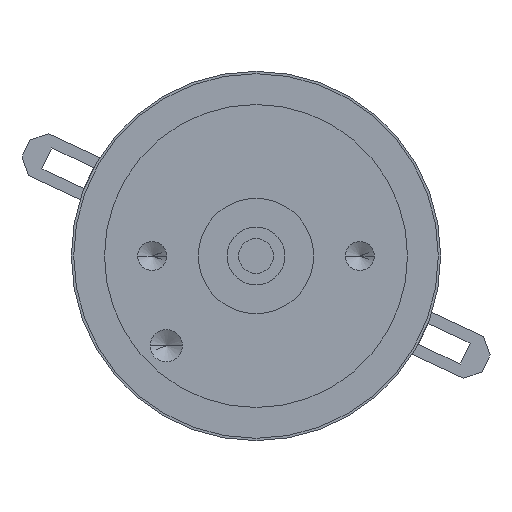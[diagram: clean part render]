
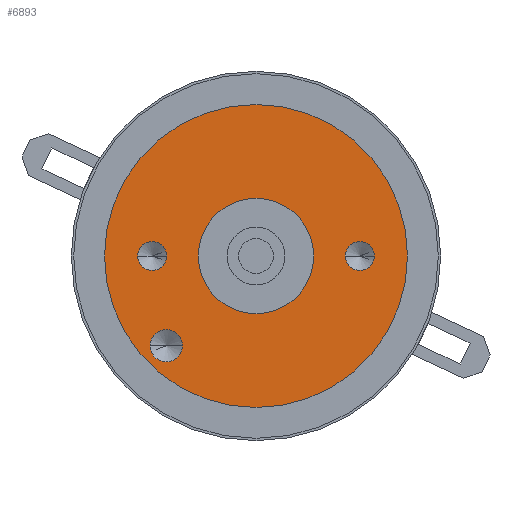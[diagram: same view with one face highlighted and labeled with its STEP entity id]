
A CAD part, left-side view. The second image highlights one B-rep face of the part: STEP entity #6893.
In plain terms, the highlighted planar face has unit normal (-1, 0, 0).
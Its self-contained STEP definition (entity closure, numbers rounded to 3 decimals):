
#2540=CARTESIAN_POINT('',(0.,0.,0.));
#2541=DIRECTION('',(-1.,0.,0.));
#2542=DIRECTION('',(0.,1.,0.));
#2543=AXIS2_PLACEMENT_3D('',#2540,#2541,#2542);
#2548=CARTESIAN_POINT('',(0.,0.,0.));
#2549=DIRECTION('',(1.,0.,0.));
#2550=DIRECTION('',(0.,1.,0.));
#2551=AXIS2_PLACEMENT_3D('',#2548,#2549,#2550);
#2556=CARTESIAN_POINT('',(0.,4.5,0.));
#2557=DIRECTION('',(-1.,0.,0.));
#2558=DIRECTION('',(0.,1.,0.));
#2559=AXIS2_PLACEMENT_3D('',#2556,#2557,#2558);
#2564=CARTESIAN_POINT('',(0.,4.5,0.));
#2565=DIRECTION('',(-1.,0.,0.));
#2566=DIRECTION('',(0.,-1.,0.));
#2567=AXIS2_PLACEMENT_3D('',#2564,#2565,#2566);
#2572=CARTESIAN_POINT('',(0.,-4.5,0.));
#2573=DIRECTION('',(-1.,0.,0.));
#2574=DIRECTION('',(0.,-1.,0.));
#2575=AXIS2_PLACEMENT_3D('',#2572,#2573,#2574);
#2580=CARTESIAN_POINT('',(0.,-4.5,0.));
#2581=DIRECTION('',(-1.,0.,0.));
#2582=DIRECTION('',(0.,1.,0.));
#2583=AXIS2_PLACEMENT_3D('',#2580,#2581,#2582);
#2588=CARTESIAN_POINT('',(0.,3.889,-3.889));
#2589=DIRECTION('',(-1.,0.,0.));
#2590=DIRECTION('',(0.,1.,0.));
#2591=AXIS2_PLACEMENT_3D('',#2588,#2589,#2590);
#2596=CARTESIAN_POINT('',(0.,3.889,-3.889));
#2597=DIRECTION('',(-1.,0.,0.));
#2598=DIRECTION('',(0.,-1.,0.));
#2599=AXIS2_PLACEMENT_3D('',#2596,#2597,#2598);
#2604=CARTESIAN_POINT('',(0.,0.,0.));
#2605=DIRECTION('',(1.,0.,0.));
#2606=DIRECTION('',(0.,1.,0.));
#2607=AXIS2_PLACEMENT_3D('',#2604,#2605,#2606);
#2626=CARTESIAN_POINT('',(0.,0.,0.));
#2627=DIRECTION('',(-1.,0.,0.));
#2628=DIRECTION('',(0.,1.,0.));
#2629=AXIS2_PLACEMENT_3D('',#2626,#2627,#2628);
#4223=CARTESIAN_POINT('',(0.,2.5,0.));
#4225=VERTEX_POINT('',#4223);
#4227=CARTESIAN_POINT('',(0.,-2.5,0.));
#4229=VERTEX_POINT('',#4227);
#4256=CARTESIAN_POINT('',(0.,6.565,0.));
#4258=VERTEX_POINT('',#4256);
#4260=CARTESIAN_POINT('',(0.,-6.565,0.));
#4262=VERTEX_POINT('',#4260);
#4283=CARTESIAN_POINT('',(0.,4.589,-3.889));
#4284=CARTESIAN_POINT('',(0.,3.189,-3.889));
#4285=VERTEX_POINT('',#4283);
#4286=VERTEX_POINT('',#4284);
#4293=CARTESIAN_POINT('',(0.,5.125,0.));
#4294=CARTESIAN_POINT('',(0.,3.875,0.));
#4295=VERTEX_POINT('',#4293);
#4296=VERTEX_POINT('',#4294);
#4297=CARTESIAN_POINT('',(0.,-5.125,0.));
#4298=CARTESIAN_POINT('',(0.,-3.875,0.));
#4299=VERTEX_POINT('',#4297);
#4300=VERTEX_POINT('',#4298);
#6860=CARTESIAN_POINT('',(0.,0.,0.));
#6861=DIRECTION('',(1.,0.,0.));
#6862=DIRECTION('',(0.,-1.,0.));
#6863=AXIS2_PLACEMENT_3D('',#6860,#6861,#6862);
#6864=PLANE('',#6863);
#6865=ORIENTED_EDGE('',*,*,#6853,.F.);
#6866=ORIENTED_EDGE('',*,*,#6842,.T.);
#6867=EDGE_LOOP('',(#6865,#6866));
#6868=FACE_OUTER_BOUND('',#6867,.F.);
#6870=ORIENTED_EDGE('',*,*,#6869,.F.);
#6872=ORIENTED_EDGE('',*,*,#6871,.T.);
#6873=EDGE_LOOP('',(#6870,#6872));
#6874=FACE_BOUND('',#6873,.F.);
#6876=ORIENTED_EDGE('',*,*,#6875,.T.);
#6878=ORIENTED_EDGE('',*,*,#6877,.T.);
#6879=EDGE_LOOP('',(#6876,#6878));
#6880=FACE_BOUND('',#6879,.F.);
#6882=ORIENTED_EDGE('',*,*,#6881,.T.);
#6884=ORIENTED_EDGE('',*,*,#6883,.T.);
#6885=EDGE_LOOP('',(#6882,#6884));
#6886=FACE_BOUND('',#6885,.F.);
#6888=ORIENTED_EDGE('',*,*,#6887,.T.);
#6890=ORIENTED_EDGE('',*,*,#6889,.T.);
#6891=EDGE_LOOP('',(#6888,#6890));
#6892=FACE_BOUND('',#6891,.F.);
#6893=ADVANCED_FACE('',(#6868,#6874,#6880,#6886,#6892),#6864,.F.);
#2544=CIRCLE('',#2543,6.565);
#2552=CIRCLE('',#2551,6.565);
#2560=CIRCLE('',#2559,0.625);
#2568=CIRCLE('',#2567,0.625);
#2576=CIRCLE('',#2575,0.625);
#2584=CIRCLE('',#2583,0.625);
#2592=CIRCLE('',#2591,0.7);
#2600=CIRCLE('',#2599,0.7);
#2608=CIRCLE('',#2607,2.5);
#2630=CIRCLE('',#2629,2.5);
#6842=EDGE_CURVE('',#4258,#4262,#2552,.T.);
#6853=EDGE_CURVE('',#4258,#4262,#2544,.T.);
#6869=EDGE_CURVE('',#4225,#4229,#2608,.T.);
#6871=EDGE_CURVE('',#4225,#4229,#2630,.T.);
#6875=EDGE_CURVE('',#4295,#4296,#2560,.T.);
#6877=EDGE_CURVE('',#4296,#4295,#2568,.T.);
#6881=EDGE_CURVE('',#4299,#4300,#2576,.T.);
#6883=EDGE_CURVE('',#4300,#4299,#2584,.T.);
#6887=EDGE_CURVE('',#4285,#4286,#2592,.T.);
#6889=EDGE_CURVE('',#4286,#4285,#2600,.T.);
